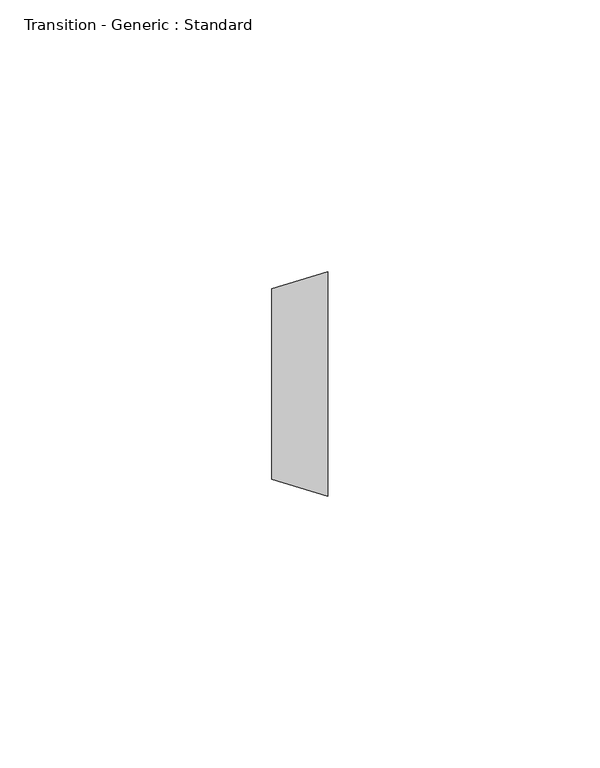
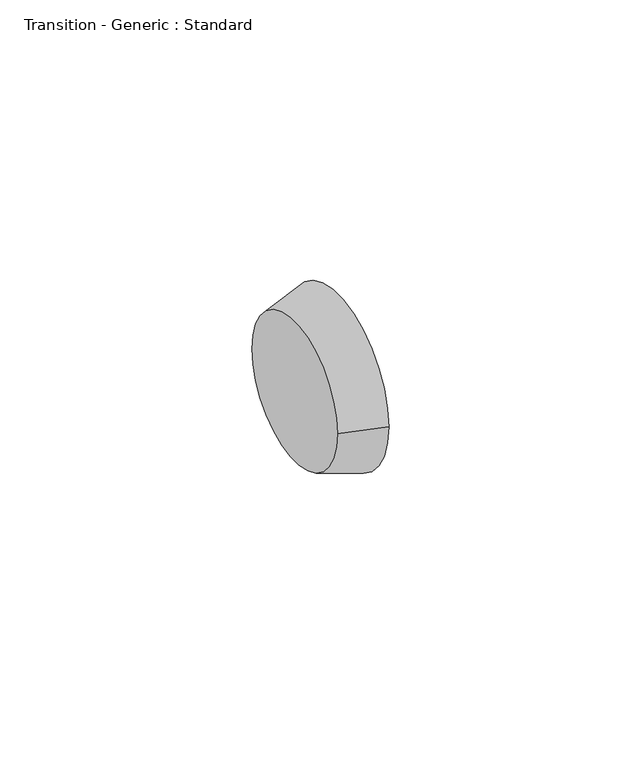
"""IFC4 building model written with IfcOpenShell, lengths in millimetres: pipe fitting geometry, Transition - Generic : Standard."""

import ifcopenshell
import ifcopenshell.guid

model = None  # the IFC model being written
_history = None  # IfcOwnerHistory: only IFC2X3 demands one
_inside = {}  # id of a spatial element -> (the spatial element, [elements in it])
_under = {}  # id of a project, library or spatial element -> (it, [spatial elements below it])
_declared = {}  # id of a project -> (the project, [libraries it declares])
_typed = {}  # id of a type object -> (the type object, [elements of that type])
_made_of = {}  # id of a material, layer set ... -> (it, [elements and type objects made of it])


def new_model(schema):
    """Start an empty IFC model of exactly this schema.

    Asked for "IFC4X3", IfcOpenShell would pick the latest addendum, in which some entities
    have other attributes; the version numbers below select the first issue.
    IFC2X3 requires an IfcOwnerHistory on every rooted entity: one is made here for all.
    """
    global model, _history
    if schema == "IFC4X3":
        model = ifcopenshell.file(schema_version=(4, 3, 0, 0))
    else:
        model = ifcopenshell.file(schema=schema)
    _inside.clear()
    _under.clear()
    _declared.clear()
    _typed.clear()
    _made_of.clear()
    _history = None
    if model.schema == "IFC2X3":
        org = make("IfcOrganization", Name="unknown")
        user = make(
            "IfcPersonAndOrganization",
            ThePerson=make("IfcPerson", FamilyName="unknown"),
            TheOrganization=org,
        )
        app = make(
            "IfcApplication",
            ApplicationDeveloper=org,
            Version="unknown",
            ApplicationFullName="unknown",
            ApplicationIdentifier="unknown",
        )
        _history = make(
            "IfcOwnerHistory",
            OwningUser=user,
            OwningApplication=app,
            ChangeAction="ADDED",
            CreationDate=0,
        )
    return model


def make(cls, **values):
    """One entity of the class cls with the attributes given. An attribute that is None is left unset."""
    return model.create_entity(
        cls, **{name: value for name, value in values.items() if value is not None}
    )


def rooted(cls, **values):
    """An entity with a GlobalId (a new one), such as an element, a storey or a relation."""
    return make(cls, GlobalId=ifcopenshell.guid.new(), OwnerHistory=_history, **values)


def si_unit(unit_type, name, prefix=None):
    """IfcSIUnit, for example si_unit("LENGTHUNIT", "METRE", prefix="MILLI")."""
    return make("IfcSIUnit", UnitType=unit_type, Prefix=prefix, Name=name)


def assignment(units):
    """IfcUnitAssignment: the units of a project."""
    return None if units is None else make("IfcUnitAssignment", Units=units)


def point(xyz):
    """IfcCartesianPoint."""
    return None if xyz is None else make("IfcCartesianPoint", Coordinates=xyz)


def direction(xyz):
    """IfcDirection."""
    return None if xyz is None else make("IfcDirection", DirectionRatios=xyz)


def frame(location, z_axis=None, x_axis=None):
    """IfcAxis2Placement3D, a coordinate frame: its origin and axes. An axis left out is left unset."""
    return make(
        "IfcAxis2Placement3D",
        Location=point(location),
        Axis=direction(z_axis),
        RefDirection=direction(x_axis),
    )


def origin():
    """The frame at (0, 0, 0) with its axes left unset."""
    return frame((0.0, 0.0, 0.0))


def place(relative_to, where):
    """IfcLocalPlacement: puts the frame where relative to a parent placement (None: the world)."""
    return make(
        "IfcLocalPlacement", PlacementRelTo=relative_to, RelativePlacement=where
    )


def context(
    kind, dimensions, precision=None, world=None, true_north=None, identifier=None
):
    """IfcGeometricRepresentationContext, for example the 3D "Model" context."""
    return make(
        "IfcGeometricRepresentationContext",
        ContextIdentifier=identifier,
        ContextType=kind,
        CoordinateSpaceDimension=dimensions,
        Precision=precision,
        WorldCoordinateSystem=world,
        TrueNorth=true_north,
    )


def project(units=None, contexts=None):
    """IfcProject with its units and contexts."""
    return rooted(
        "IfcProject",
        Name="project",
        RepresentationContexts=contexts,
        UnitsInContext=assignment(units),
    )


def spatial(cls, under=None, at=None, **own):
    """A site, building, storey or space (cls), placed at a placement, below another one or the project."""
    s = rooted(cls, ObjectPlacement=at, **own)
    if under is not None:
        _under.setdefault(under.id(), (under, []))[1].append(s)
    return s


def polyline(points):
    """IfcPolyline through the points."""
    return make("IfcPolyline", Points=[point(p) for p in points])


def circle_curve(where, radius):
    """IfcCircle in the frame where."""
    return make("IfcCircle", Position=where, Radius=radius)


def shape(context_of_items, identifier, shape_type, items):
    """IfcShapeRepresentation: the items that make up one representation, for example the "Body"."""
    return make(
        "IfcShapeRepresentation",
        ContextOfItems=context_of_items,
        RepresentationIdentifier=identifier,
        RepresentationType=shape_type,
        Items=items,
    )


def source(mapping_origin, context_of_items, identifier, shape_type, items):
    """IfcRepresentationMap: a shape defined once, which mapped items show again and again."""
    return make(
        "IfcRepresentationMap",
        MappingOrigin=mapping_origin,
        MappedRepresentation=shape(context_of_items, identifier, shape_type, items),
    )


def transform(
    local_origin,
    x_axis=None,
    y_axis=None,
    z_axis=None,
    scale=None,
    scale2=None,
    scale3=None,
    uniform=True,
):
    """IfcCartesianTransformationOperator3D, or its non-uniform kind. x_axis, y_axis, z_axis: its Axis1, 2, 3."""
    if uniform:
        return make(
            "IfcCartesianTransformationOperator3D",
            Axis1=direction(x_axis),
            Axis2=direction(y_axis),
            LocalOrigin=point(local_origin),
            Scale=scale,
            Axis3=direction(z_axis),
        )
    return make(
        "IfcCartesianTransformationOperator3DnonUniform",
        Axis1=direction(x_axis),
        Axis2=direction(y_axis),
        LocalOrigin=point(local_origin),
        Scale=scale,
        Axis3=direction(z_axis),
        Scale2=scale2,
        Scale3=scale3,
    )


def mapped(mapping_source, mapping_target):
    """IfcMappedItem: shows the shape of a source again, moved by a transform."""
    return make(
        "IfcMappedItem", MappingSource=mapping_source, MappingTarget=mapping_target
    )


def made_of(thing, what):
    """Note that an element or type object is made of a material, layer set ...; save() writes the relation."""
    if what is not None:
        _made_of.setdefault(what.id(), (what, []))[1].append(thing)
    return thing


def element(
    cls,
    number,
    at=None,
    inside=None,
    cuts=None,
    type_object=None,
    material=None,
    context=None,
    identifier="Body",
    shape_type=None,
    held_by="IfcProductDefinitionShape",
    body=None,
    shapes=None,
    **own,
):
    """One element of the class cls, such as IfcWall. Its Tag is "e" and its number.

    at: its placement. inside: the storey or other place that contains it. cuts: it is an
    opening in that element (IfcRelVoidsElement). A single representation is given by context,
    identifier, shape_type and body (its items); several are given by shapes. held_by: the class
    of the entity that holds the representations. save() writes the other relations.
    """
    e = rooted(cls, Tag="e%d" % number, ObjectPlacement=at, **own)
    if body is not None:
        shapes = [shape(context, identifier, shape_type, body)]
    if shapes is not None:
        e.Representation = make(held_by, Representations=shapes)
    if inside is not None:
        _inside.setdefault(inside.id(), (inside, []))[1].append(e)
    if cuts is not None:
        rooted(
            "IfcRelVoidsElement", RelatingBuildingElement=cuts, RelatedOpeningElement=e
        )
    if type_object is not None:
        _typed.setdefault(type_object.id(), (type_object, []))[1].append(e)
    return made_of(e, material)


def aggregate(whole, parts):
    """IfcRelAggregates: a whole, such as a stair, and the parts it consists of."""
    return rooted("IfcRelAggregates", RelatingObject=whole, RelatedObjects=parts)


def save(model, path):
    """Write the relations noted so far, then the file.

    IfcRelAggregates (storeys below a building ...), IfcRelContainedInSpatialStructure (elements
    in a storey), IfcRelDefinesByType, IfcRelAssociatesMaterial and IfcRelDeclares: one each for
    every whole, place, type object, material and project.
    """
    for whole, parts in _under.values():
        aggregate(whole, parts)
    for where, things in _inside.values():
        rooted(
            "IfcRelContainedInSpatialStructure",
            RelatedElements=things,
            RelatingStructure=where,
        )
    for kind, things in _typed.values():
        rooted("IfcRelDefinesByType", RelatedObjects=things, RelatingType=kind)
    for what, things in _made_of.values():
        rooted("IfcRelAssociatesMaterial", RelatedObjects=things, RelatingMaterial=what)
    for by, libraries in _declared.values():
        rooted("IfcRelDeclares", RelatingContext=by, RelatedDefinitions=libraries)
    model.write(path)


def plane_surface(at):
    """IfcPlane: the flat surface through the origin of the frame at, square to its z axis."""
    return make("IfcPlane", Position=at)


def revolved_surface(curve, axis_point, axis_direction):
    """IfcSurfaceOfRevolution: the curve turned about the line through axis_point along axis_direction."""
    return make(
        "IfcSurfaceOfRevolution",
        SweptCurve=make("IfcArbitraryOpenProfileDef", ProfileType="CURVE", Curve=curve),
        AxisPosition=make("IfcAxis1Placement", Location=point(axis_point), Axis=direction(axis_direction)),
    )


def advanced_brep(points, edges, surfaces, faces):
    """IfcAdvancedBrep: a solid bounded by faces that lie on surfaces and meet in shared edges.

    An edge is (start, end): straight between two places in points (the first is 0);
    or (start, end, curve); or (start, end, curve, False) where it runs against its curve.
    A face is (place in surfaces, loops), or (place, loops, False) where it looks against
    its surface's normal. A loop lists edges by number (the first is 1), with a minus sign
    where the edge is run from its end to its start. The first loop is the outer one.
    """
    corners = [point(p) for p in points]
    vertices = [make("IfcVertexPoint", VertexGeometry=c) for c in corners]
    made = []
    for start, end, *more in edges:
        made.append(
            make(
                "IfcEdgeCurve",
                EdgeStart=vertices[start],
                EdgeEnd=vertices[end],
                EdgeGeometry=more[0] if more else make("IfcPolyline", Points=[corners[start], corners[end]]),
                SameSense=more[1] if len(more) > 1 else True,
            )
        )
    hull = []
    for where, loops, *sense in faces:
        bounds = []
        for j, loop in enumerate(loops):
            ring = [make("IfcOrientedEdge", EdgeElement=made[abs(k) - 1], Orientation=k > 0) for k in loop]
            bounds.append(
                make(
                    "IfcFaceOuterBound" if j == 0 else "IfcFaceBound",
                    Bound=make("IfcEdgeLoop", EdgeList=ring),
                    Orientation=True,
                )
            )
        hull.append(make("IfcAdvancedFace", Bounds=bounds, FaceSurface=surfaces[where], SameSense=sense[0] if sense else True))
    return make("IfcAdvancedBrep", Outer=make("IfcClosedShell", CfsFaces=hull))


def transition_generic_standard_d781b39e(model_context):
    return source(origin(), model_context, "Body", "AdvancedBrep", [
        advanced_brep(
        [(10.31875, -20.6375, 0.0), (10.31875, 20.6375, 0.0), (0.0, -17.4875, 0.0), (0.0, 17.4875, 0.0)],
        [
            (0, 1, circle_curve(frame((10.31875, 0.0, 0.0), z_axis=(1.0, 0.0, 0.0), x_axis=(0.0, -1.0, 0.0)), 20.6375)),
            (1, 0, circle_curve(frame((10.31875, 0.0, 0.0), z_axis=(1.0, 0.0, 0.0), x_axis=(0.0, 1.0, 0.0)), 20.6375)),
            (2, 3, circle_curve(frame((0.0, 0.0, 0.0), z_axis=(-1.0, 0.0, 0.0), x_axis=(0.0, 1.0, 0.0)), 17.4875)),
            (3, 2, circle_curve(frame((0.0, 0.0, 0.0), z_axis=(-1.0, 0.0, 0.0), x_axis=(0.0, -1.0, 0.0)), 17.4875)),
            (3, 1),
            (0, 2),
        ],
        [
            plane_surface(frame((10.31875, 0.0, 0.0), z_axis=(1.0, 0.0, 0.0), x_axis=(0.0, 0.0, -1.0))),
            plane_surface(frame((0.0, 0.0, 0.0), z_axis=(-1.0, 0.0, 0.0), x_axis=(0.0, 0.0, -1.0))),
            revolved_surface(polyline([(0.0, 17.487500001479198, 0.0), (10.318750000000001, 20.6375, 0.0)]), (-57.2854415, 0.0, 0.0), (1.0, 0.0, 0.0)),
            revolved_surface(polyline([(0.0, -17.487500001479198, 0.0), (10.318750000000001, -20.6375, 0.0)]), (-57.2854415, 0.0, 0.0), (1.0, 0.0, 0.0)),
        ],
        [
            (0, [[1, 2]]),
            (1, [[3, 4]]),
            (2, [[-4, 5, -1, 6]]),
            (3, [[-3, -6, -2, -5]]),
        ],
    ),
    ])


if __name__ == "__main__":
    model = new_model("IFC4")
    model_context = context("Model", 3, world=origin())
    ifc_project = project(units=[si_unit("LENGTHUNIT", "METRE", prefix="MILLI")], contexts=[model_context])
    site = spatial("IfcSite", under=ifc_project)
    building = spatial("IfcBuilding", under=site)
    placement = place(None, origin())
    transition_generic_standard_shape = transition_generic_standard_d781b39e(model_context)
    element("IfcPipeFitting", 1, ObjectType="Transition - Generic : Standard", at=placement, inside=building, context=model_context, shape_type="MappedRepresentation", body=[
        mapped(transition_generic_standard_shape, transform((0.0, 0.0, 0.0), x_axis=(1.0, 0.0, 0.0), y_axis=(0.0, 1.0, 0.0), z_axis=(0.0, 0.0, 1.0))),
    ])
    save(model, "model.ifc")
